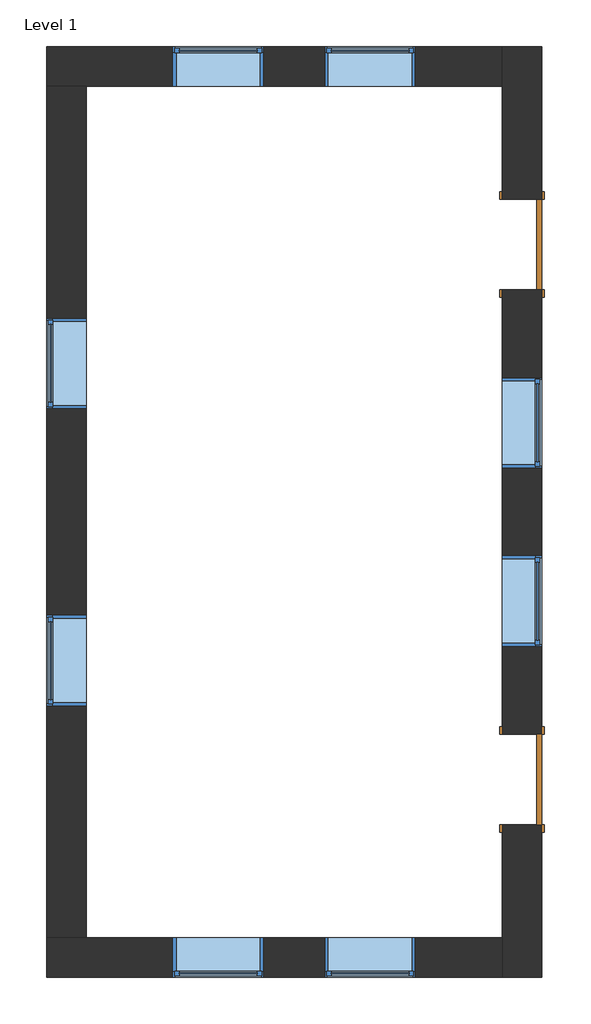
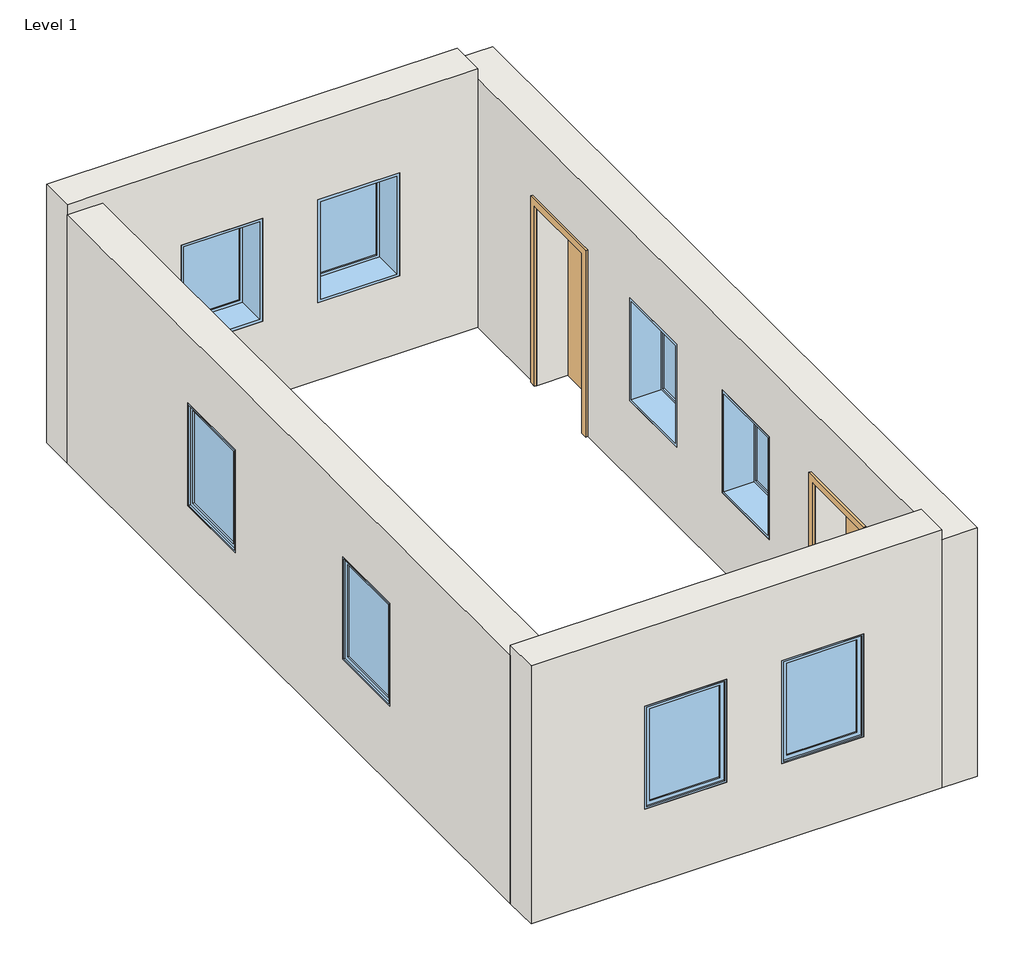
# One storey: 8 windows, 4 walls, 2 doors.
"""IFC4 building model written with IfcOpenShell, lengths in millimetres."""

from ifc_helpers import new_model, si_unit, frame, origin, place, context, project, spatial, polyline, outline, extrude, faceted_brep, transform, mapped, element, save
from components import door_bb166dda, door_02a4db38, window_6be7d9fc, window_89604b62

model = new_model("IFC4")

# Units and contexts
model_context = context("Model", 3, world=origin())
ifc_project = project(units=[si_unit("LENGTHUNIT", "METRE", prefix="MILLI")], contexts=[model_context])

# Site, building, storey
site = spatial("IfcSite", under=ifc_project)
building = spatial("IfcBuilding", under=site)
storey = spatial("IfcBuildingStorey", under=building, Name="Level 1", Elevation=0.0)

# Doors
placement = place(None, origin())
door_shape = door_bb166dda(model_context)
element("IfcDoor", 1, ObjectType="Single-Flush : 36\" x 84\"", at=placement, inside=storey, context=model_context, shape_type="MappedRepresentation", body=[
    mapped(door_shape, transform((4819.5805911, -2182.3398477, 0.0), x_axis=(0.0, -1.0, 0.0), y_axis=(1.0, 0.0, 0.0), z_axis=(0.0, 0.0, 1.0))),
])
door_2_shape = door_02a4db38(model_context)
element("IfcDoor", 2, ObjectType="Single-Flush : 36\" x 84\"", at=placement, inside=storey, context=model_context, shape_type="MappedRepresentation", body=[
    mapped(door_2_shape, transform((4819.5805911, 3217.6601523, 0.0), x_axis=(0.0, 1.0, 0.0), y_axis=(-1.0, 0.0, 0.0), z_axis=(0.0, 0.0, 1.0))),
])

# Walls
element("IfcWall", 3, ObjectType="Generic - 5\"", at=placement, inside=storey, context=model_context, shape_type="Brep", body=[
    faceted_brep([(5019.5805911, -2639.5398477, 0.0), (5019.5805911, -2639.5398477, 2133.6), (5019.5805911, -1725.1398477, 2133.6), (5019.5805911, -1725.1398477, 0.0), (5019.5805911, 2760.4601523, 0.0), (5019.5805911, 2760.4601523, 2133.6), (5019.5805911, 3674.8601523, 2133.6), (5019.5805911, 3674.8601523, 0.0), (5019.5805911, 5217.6601523, 0.0), (5019.5805911, 5217.6601523, 2940.0), (5019.5805911, -4182.3398477, 2940.0), (5019.5805911, -4182.3398477, 0.0), (5019.5805911, 960.4601523, 914.4), (5019.5805911, 960.4601523, 2133.6), (5019.5805911, 1874.8601523, 2133.6), (5019.5805911, 1874.8601523, 914.4), (5019.5805911, -839.5398477, 914.4), (5019.5805911, -839.5398477, 2133.6), (5019.5805911, 74.8601523, 2133.6), (5019.5805911, 74.8601523, 914.4), (4619.5805911, -2639.5398477, 2133.6), (4619.5805911, -2639.5398477, 0.0), (4619.5805911, -3782.3398477, 0.0), (4619.5805911, -4182.3398477, 0.0), (4619.5805911, -4182.3398477, 2940.0), (4619.5805911, 5217.6601523, 2940.0), (4619.5805911, 5217.6601523, 0.0), (4619.5805911, 4817.6601523, 0.0), (4619.5805911, 3674.8601523, 0.0), (4619.5805911, 3674.8601523, 2133.6), (4619.5805911, 2760.4601523, 2133.6), (4619.5805911, 2760.4601523, 0.0), (4619.5805911, -1725.1398477, 0.0), (4619.5805911, -1725.1398477, 2133.6), (4619.5805911, 960.4601523, 2133.6), (4619.5805911, 960.4601523, 914.4), (4619.5805911, 1874.8601523, 914.4), (4619.5805911, 1874.8601523, 2133.6), (4619.5805911, -839.5398477, 2133.6), (4619.5805911, -839.5398477, 914.4), (4619.5805911, 74.8601523, 914.4), (4619.5805911, 74.8601523, 2133.6)], [[[0, 1, 2, 3, 4, 5, 6, 7, 8, 9, 10, 11], [12, 13, 14, 15], [16, 17, 18, 19]], [[20, 21, 22, 23, 24, 25, 26, 27, 28, 29, 30, 31, 32, 33], [34, 35, 36, 37], [38, 39, 40, 41]], [[26, 8, 7, 28, 27]], [[11, 23, 22, 21, 0]], [[3, 32, 31, 4]], [[8, 26, 25, 9]], [[23, 11, 10, 24]], [[1, 0, 21, 20]], [[2, 1, 20, 33]], [[3, 2, 33, 32]], [[29, 28, 7, 6]], [[30, 29, 6, 5]], [[31, 30, 5, 4]], [[35, 34, 13, 12]], [[36, 35, 12, 15]], [[37, 36, 15, 14]], [[34, 37, 14, 13]], [[39, 38, 17, 16]], [[40, 39, 16, 19]], [[41, 40, 19, 18]], [[38, 41, 18, 17]], [[10, 9, 25, 24]]]),
])
element("IfcWall", 4, ObjectType="Generic - 5\"", at=placement, inside=storey, context=model_context, shape_type="Brep", body=[
    faceted_brep([(4619.5805911, 5217.6601523, 0.0), (19.5805911, 5217.6601523, 0.0), (19.5805911, 5217.6601523, 3060.0), (4619.5805911, 5217.6601523, 3060.0), (2829.0472578, 5217.6601523, 2133.6), (2829.0472578, 5217.6601523, 914.4), (3743.4472578, 5217.6601523, 914.4), (3743.4472578, 5217.6601523, 2133.6), (1295.7139245, 5217.6601523, 2133.6), (1295.7139245, 5217.6601523, 914.4), (2210.1139245, 5217.6601523, 914.4), (2210.1139245, 5217.6601523, 2133.6), (4619.5805911, 4817.6601523, 0.0), (4619.5805911, 4817.6601523, 3060.0), (419.5805911, 4817.6601523, 3060.0), (19.5805911, 4817.6601523, 3060.0), (19.5805911, 4817.6601523, 0.0), (419.5805911, 4817.6601523, 0.0), (2829.0472578, 4817.6601523, 2133.6), (3743.4472578, 4817.6601523, 2133.6), (3743.4472578, 4817.6601523, 914.4), (2829.0472578, 4817.6601523, 914.4), (1295.7139245, 4817.6601523, 2133.6), (2210.1139245, 4817.6601523, 2133.6), (2210.1139245, 4817.6601523, 914.4), (1295.7139245, 4817.6601523, 914.4)], [[[0, 1, 2, 3], [4, 5, 6, 7], [8, 9, 10, 11]], [[12, 13, 14, 15, 16, 17], [18, 19, 20, 21], [22, 23, 24, 25]], [[1, 0, 12, 17, 16]], [[3, 2, 15, 14, 13]], [[2, 1, 16, 15]], [[0, 3, 13, 12]], [[5, 4, 18, 21]], [[6, 5, 21, 20]], [[7, 6, 20, 19]], [[4, 7, 19, 18]], [[9, 8, 22, 25]], [[10, 9, 25, 24]], [[11, 10, 24, 23]], [[8, 11, 23, 22]]]),
])
element("IfcWall", 5, ObjectType="Generic - 5\"", at=placement, inside=storey, context=model_context, shape_type="Brep", body=[
    faceted_brep([(4619.5805911, -3782.3398477, 0.0), (419.5805911, -3782.3398477, 0.0), (19.5805911, -3782.3398477, 0.0), (19.5805911, -3782.3398477, 3060.0), (419.5805911, -3782.3398477, 3060.0), (4619.5805911, -3782.3398477, 3060.0), (2829.0472578, -3782.3398477, 2133.6), (2829.0472578, -3782.3398477, 914.4), (3743.4472578, -3782.3398477, 914.4), (3743.4472578, -3782.3398477, 2133.6), (1295.7139245, -3782.3398477, 2133.6), (1295.7139245, -3782.3398477, 914.4), (2210.1139245, -3782.3398477, 914.4), (2210.1139245, -3782.3398477, 2133.6), (4619.5805911, -4182.3398477, 0.0), (4619.5805911, -4182.3398477, 3060.0), (19.5805911, -4182.3398477, 3060.0), (19.5805911, -4182.3398477, 0.0), (2829.0472578, -4182.3398477, 2133.6), (3743.4472578, -4182.3398477, 2133.6), (3743.4472578, -4182.3398477, 914.4), (2829.0472578, -4182.3398477, 914.4), (1295.7139245, -4182.3398477, 2133.6), (2210.1139245, -4182.3398477, 2133.6), (2210.1139245, -4182.3398477, 914.4), (1295.7139245, -4182.3398477, 914.4)], [[[0, 1, 2, 3, 4, 5], [6, 7, 8, 9], [10, 11, 12, 13]], [[14, 15, 16, 17], [18, 19, 20, 21], [22, 23, 24, 25]], [[2, 1, 0, 14, 17]], [[5, 4, 3, 16, 15]], [[3, 2, 17, 16]], [[0, 5, 15, 14]], [[7, 6, 18, 21]], [[8, 7, 21, 20]], [[9, 8, 20, 19]], [[6, 9, 19, 18]], [[11, 10, 22, 25]], [[12, 11, 25, 24]], [[13, 12, 24, 23]], [[10, 13, 23, 22]]]),
])
element("IfcWall", 6, ObjectType="Generic - 5\"", at=placement, inside=storey, context=model_context, shape_type="SweptSolid", body=[
    extrude(outline(polyline([(4817.6601523, 0.0), (-3782.3398477, 0.0), (-3782.3398477, 2940.0), (4817.6601523, 2940.0), (4817.6601523, 0.0)]), holes=[polyline([(2474.8601523, 914.4), (2474.8601523, 2133.6), (1560.4601523, 2133.6), (1560.4601523, 914.4), (2474.8601523, 914.4)]), polyline([(-525.1398477, 914.4), (-525.1398477, 2133.6), (-1439.5398477, 2133.6), (-1439.5398477, 914.4), (-525.1398477, 914.4)])]), frame((19.5805911, 0.0, 0.0), z_axis=(1.0, 0.0, 0.0), x_axis=(0.0, 1.0, 0.0)), (0.0, 0.0, 1.0), 400.0),
])

# Windows
window_shape = window_6be7d9fc(model_context)
element("IfcWindow", 7, ObjectType="Fixed : 36\" x 48\"", at=placement, inside=storey, context=model_context, shape_type="MappedRepresentation", body=[
    mapped(window_shape, transform((1714.8139245, -3982.3398477, 0.0), x_axis=(-1.0, 0.0, 0.0), y_axis=(0.0, -1.0, 0.0), z_axis=(0.0, 0.0, 1.0))),
])
element("IfcWindow", 8, ObjectType="Fixed : 36\" x 48\"", at=placement, inside=storey, context=model_context, shape_type="MappedRepresentation", body=[
    mapped(window_shape, transform((3248.1472578, -3982.3398477, 0.0), x_axis=(-1.0, 0.0, 0.0), y_axis=(0.0, -1.0, 0.0), z_axis=(0.0, 0.0, 1.0))),
])
element("IfcWindow", 9, ObjectType="Fixed : 36\" x 48\"", at=placement, inside=storey, context=model_context, shape_type="MappedRepresentation", body=[
    mapped(window_shape, transform((219.5805911, -944.2398477, 0.0), x_axis=(0.0, 1.0, 0.0), y_axis=(-1.0, 0.0, 0.0), z_axis=(0.0, 0.0, 1.0))),
])
element("IfcWindow", 10, ObjectType="Fixed : 36\" x 48\"", at=placement, inside=storey, context=model_context, shape_type="MappedRepresentation", body=[
    mapped(window_shape, transform((219.5805911, 2055.7601523, 0.0), x_axis=(0.0, 1.0, 0.0), y_axis=(-1.0, 0.0, 0.0), z_axis=(0.0, 0.0, 1.0))),
])
element("IfcWindow", 11, ObjectType="Fixed : 36\" x 48\"", at=placement, inside=storey, context=model_context, shape_type="MappedRepresentation", body=[
    mapped(window_shape, transform((4819.5805911, -420.4398477, 0.0), x_axis=(0.0, -1.0, 0.0), y_axis=(1.0, 0.0, 0.0), z_axis=(0.0, 0.0, 1.0))),
])
element("IfcWindow", 12, ObjectType="Fixed : 36\" x 48\"", at=placement, inside=storey, context=model_context, shape_type="MappedRepresentation", body=[
    mapped(window_shape, transform((4819.5805911, 1379.5601523, 0.0), x_axis=(0.0, -1.0, 0.0), y_axis=(1.0, 0.0, 0.0), z_axis=(0.0, 0.0, 1.0))),
])
window_2_shape = window_89604b62(model_context)
element("IfcWindow", 13, ObjectType="Fixed : 36\" x 48\"", at=placement, inside=storey, context=model_context, shape_type="MappedRepresentation", body=[
    mapped(window_2_shape, transform((1714.8139245, 5017.6601523, 0.0), x_axis=(-1.0, 0.0, 0.0), y_axis=(0.0, -1.0, 0.0), z_axis=(0.0, 0.0, 1.0))),
])
element("IfcWindow", 14, ObjectType="Fixed : 36\" x 48\"", at=placement, inside=storey, context=model_context, shape_type="MappedRepresentation", body=[
    mapped(window_2_shape, transform((3248.1472578, 5017.6601523, 0.0), x_axis=(-1.0, 0.0, 0.0), y_axis=(0.0, -1.0, 0.0), z_axis=(0.0, 0.0, 1.0))),
])

save(model, "model.ifc")
